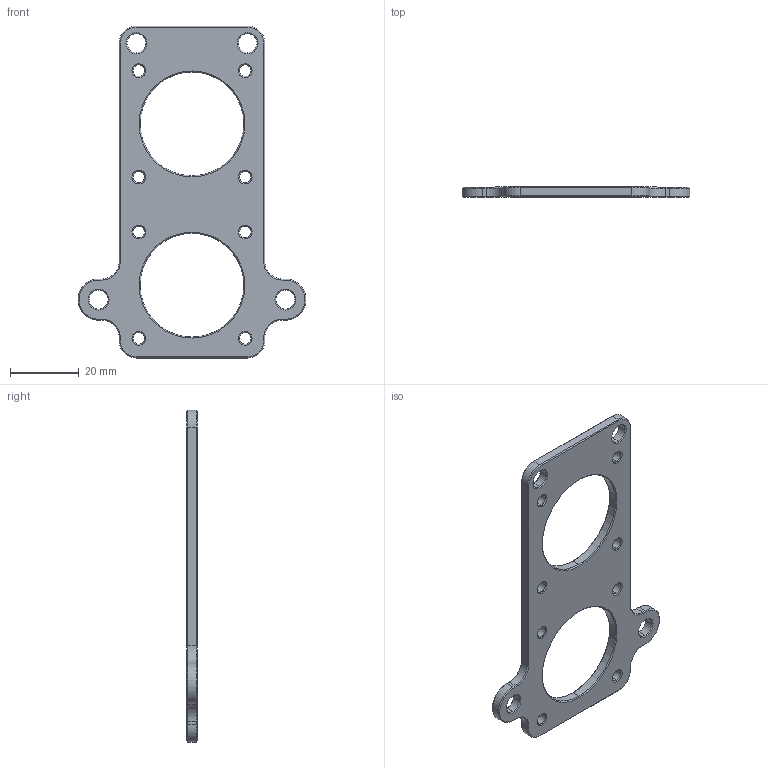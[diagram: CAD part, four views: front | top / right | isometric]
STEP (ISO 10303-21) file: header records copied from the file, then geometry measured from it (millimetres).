
FILE_DESCRIPTION (( 'STEP AP214' ), '1' );
FILE_NAME ('MAM11201 -XB- Plaque BlocMoteur Nema17.STEP', '2024-12-18T11:02:51', ( '' ), ( '' ), 'SwSTEP 2.0', 'SolidWorks 2019', '' );
FILE_SCHEMA (( 'AUTOMOTIVE_DESIGN' ));
Length unit declared in the file: millimetre
Products named in the file (1): MAM11201 -XB- Plaque BlocMoteur Nema17
Bounding box: 66.4 x 3 x 96.7 mm (x, y, z)
Volume: 8212 mm3; surface area: 7219.9 mm2
Topology: 1 solids, 1 shells, 146 faces, 336 edges, 192 vertices
Faces by surface type: cone 76, cylinder 38, plane 32
Entity records: 4330 total; most frequent: DIRECTION 782, CARTESIAN_POINT 675, ORIENTED_EDGE 672, EDGE_CURVE 336, AXIS2_PLACEMENT_3D 299, VERTEX_POINT 192, LINE 184, VECTOR 184
